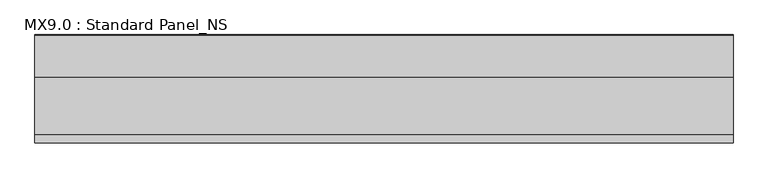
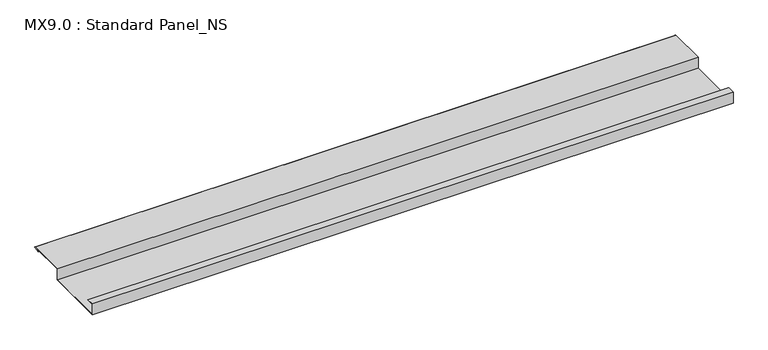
"""IFC4 building model written with IfcOpenShell, lengths in millimetres: proxy geometry, MX9.0 : Standard Panel_NS."""

from ifc_helpers import new_model, si_unit, point, frame, frame_2d, origin, place, context, project, spatial, polyline, circle_curve, trimmed, segment, composite_curve, outline, extrude, source, transform, mapped, element, save


def mx9_0_standard_panel_ns_2f6deb61(model_context):
    return source(origin(), model_context, "Body", "SweptSolid", [
        extrude(outline(composite_curve([segment(polyline([(0.0, 0.0), (25.0, 0.0), (25.0, -1.0), (1.0, -1.0), (1.0, -37.0), (199.0, -37.0), (199.0, 1.0), (325.0510156, 1.0)]), True, "CONTINUOUS"), segment(trimmed(circle_curve(frame_2d((324.3094696, -0.9153551)), 2.0538928), [point((325.0510156, 1.0))], [point((325.1748462, -2.778041))], False, "CARTESIAN"), True, "CONTINUOUS"), segment(polyline([(325.1748462, -2.778041), (308.7874714, -5.923107), (308.5989911, -4.94103), (324.8448691, -1.8231201)]), True, "CONTINUOUS"), segment(trimmed(circle_curve(frame_2d((324.3094696, -0.9153551)), 1.0538928), [point((324.8448691, -1.8231201))], [point((324.8317866, 0.0))], True, "CARTESIAN"), True, "CONTINUOUS"), segment(polyline([(324.8317866, 0.0), (200.0, 0.0), (200.0, -38.0), (0.0, -38.0), (0.0, 0.0)]), True, "CONTINUOUS")], self_intersect=False)), frame((0.0, 0.0, 0.0), z_axis=(1.0, 0.0, 0.0), x_axis=(0.0, 1.0, 0.0)), (0.0, 0.0, 1.0), 2100.0),
    ])


if __name__ == "__main__":
    model = new_model("IFC4")
    model_context = context("Model", 3, world=origin())
    ifc_project = project(units=[si_unit("LENGTHUNIT", "METRE", prefix="MILLI")], contexts=[model_context])
    site = spatial("IfcSite", under=ifc_project)
    building = spatial("IfcBuilding", under=site)
    placement = place(None, origin())
    mx9_0_standard_panel_ns_shape = mx9_0_standard_panel_ns_2f6deb61(model_context)
    element("IfcBuildingElementProxy", 1, Name="MX9.0 : Standard Panel_NS", ObjectType="MX9.0 : Standard Panel_NS", at=placement, inside=building, context=model_context, shape_type="MappedRepresentation", body=[
        mapped(mx9_0_standard_panel_ns_shape, transform((0.0, 0.0, 0.0), x_axis=(1.0, 0.0, 0.0), y_axis=(0.0, 1.0, 0.0), z_axis=(0.0, 0.0, 1.0))),
    ])
    save(model, "model.ifc")
